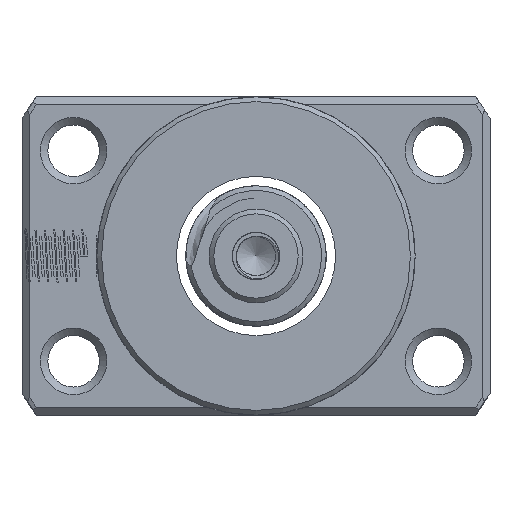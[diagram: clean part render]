
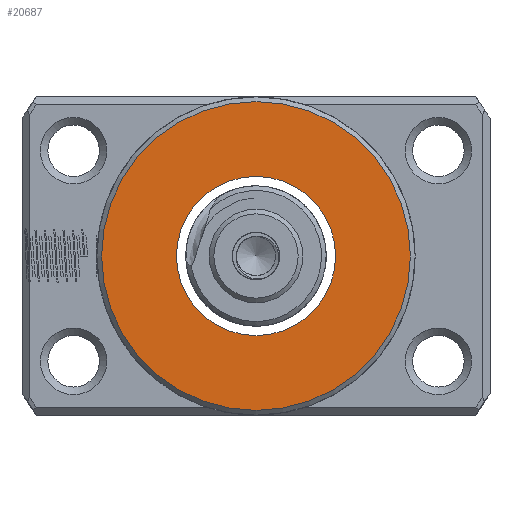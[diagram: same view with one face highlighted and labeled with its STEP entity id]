
A CAD part, left-side view. The second image highlights one B-rep face of the part: STEP entity #20687.
In plain terms, the highlighted planar face has unit normal (-1, 0, 0).
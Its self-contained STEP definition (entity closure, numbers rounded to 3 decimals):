
#323 = VERTEX_POINT ( 'NONE', #2553 ) ;
#813 = CARTESIAN_POINT ( 'NONE',  ( -53.324, 0., 16.5 ) ) ;
#1506 = AXIS2_PLACEMENT_3D ( 'NONE', #3418, #18613, #10948 ) ;
#2553 = CARTESIAN_POINT ( 'NONE',  ( -53.324, 0., 8.5 ) ) ;
#3418 = CARTESIAN_POINT ( 'NONE',  ( -53.324, 0., 0. ) ) ;
#4696 = EDGE_CURVE ( 'NONE', #19368, #19368, #6616, .T. ) ;
#4975 = DIRECTION ( 'NONE',  ( -1., 0., 0. ) ) ;
#5058 = ORIENTED_EDGE ( 'NONE', *, *, #13281, .F. ) ;
#5969 = ORIENTED_EDGE ( 'NONE', *, *, #4696, .T. ) ;
#6616 = CIRCLE ( 'NONE', #1506, 16.5 ) ;
#7299 = CIRCLE ( 'NONE', #23103, 8.5 ) ;
#8995 = DIRECTION ( 'NONE',  ( 0., 0., 1. ) ) ;
#10428 = AXIS2_PLACEMENT_3D ( 'NONE', #16159, #24093, #8995 ) ;
#10948 = DIRECTION ( 'NONE',  ( 0., 0., 1. ) ) ;
#12820 = FACE_OUTER_BOUND ( 'NONE', #14990, .T. ) ;
#12946 = PLANE ( 'NONE',  #10428 ) ;
#13281 = EDGE_CURVE ( 'NONE', #323, #323, #7299, .T. ) ;
#14990 = EDGE_LOOP ( 'NONE', ( #5969 ) ) ;
#16159 = CARTESIAN_POINT ( 'NONE',  ( -53.324, 8.5, 0. ) ) ;
#16452 = CARTESIAN_POINT ( 'NONE',  ( -53.324, 0., 0. ) ) ;
#17548 = EDGE_LOOP ( 'NONE', ( #5058 ) ) ;
#18312 = DIRECTION ( 'NONE',  ( 0., 0., 1. ) ) ;
#18613 = DIRECTION ( 'NONE',  ( -1., 0., 0. ) ) ;
#19368 = VERTEX_POINT ( 'NONE', #813 ) ;
#20687 = ADVANCED_FACE ( 'NONE', ( #12820, #23966 ), #12946, .T. ) ;
#23103 = AXIS2_PLACEMENT_3D ( 'NONE', #16452, #4975, #18312 ) ;
#23966 = FACE_BOUND ( 'NONE', #17548, .T. ) ;
#24093 = DIRECTION ( 'NONE',  ( -1., 0., 0. ) ) ;
